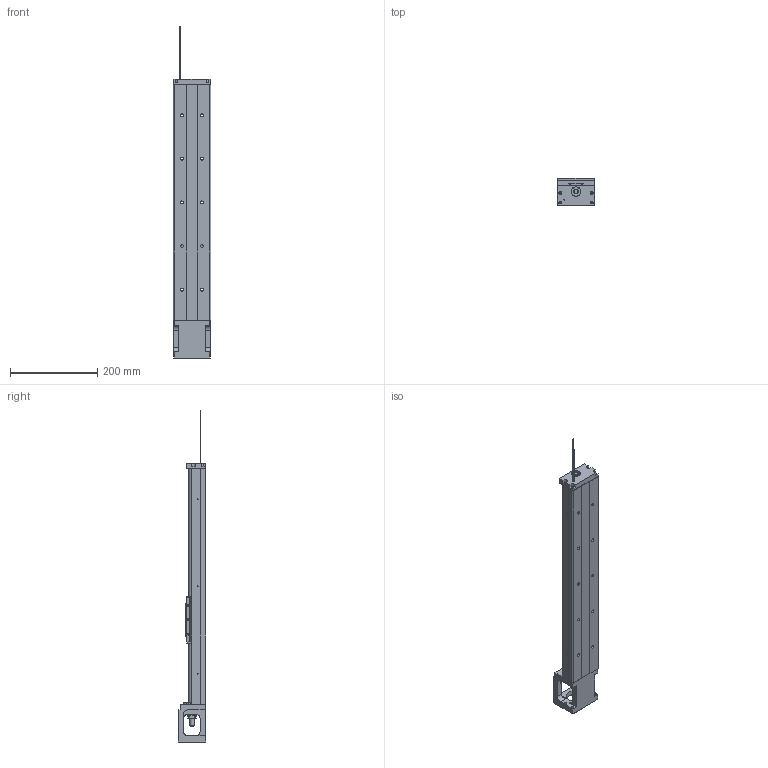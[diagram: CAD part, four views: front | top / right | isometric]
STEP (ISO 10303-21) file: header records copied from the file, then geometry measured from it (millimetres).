
FILE_DESCRIPTION(/* description */ (''),/* implementation_level */ '2;1');
FILE_NAME(/* name */ 'KP46N-540C02-D.stp',/* time_stamp */ '2020-07-02T12:00:15+08:00',/* author */ (''),/* organization */ (''),/* preprocessor_version */ 'ST-DEVELOPER v14',/* originating_system */ 'SIEMENS PLM Software NX 8.0',/* authorisation */ '');
FILE_SCHEMA (('AUTOMOTIVE_DESIGN { 1 0 10303 214 3 1 1 1 }'));
Length unit declared in the file: millimetre
Products named in the file (1): model2
Bounding box: 86 x 64 x 761.89 mm (x, y, z)
Volume: 1345150.7 mm3; surface area: 284803.8 mm2
Topology: 5 solids, 17 shells, 627 faces, 1642 edges, 1075 vertices
Faces by surface type: plane 287, cylinder 223, cone 62, bspline 47, torus 8
Full cylindrical faces by diameter (mm): 2.11 x4, 2.15 x6, 2.42 x8, 3 x6, 3.2 x4, 3.3 x6, 3.4 x8, 4.2 x4, 4.5 x8, 5 x10, 6 x8, 6.35 x2, 6.6 x10, 9.6 x1, 10 x4, 11 x10, 12 x1, 14.95 x2, 15 x1, 16 x2, 22 x3, 27.5 x1, 44 x1, 50 x1
Entity records: 31471 total; most frequent: CARTESIAN_POINT 12982, ORIENTED_EDGE 2816, DIRECTION 2754, EDGE_CURVE 1408, AXIS2_PLACEMENT_3D 1011, VERTEX_POINT 1010, EDGE_LOOP 876, LINE 732
